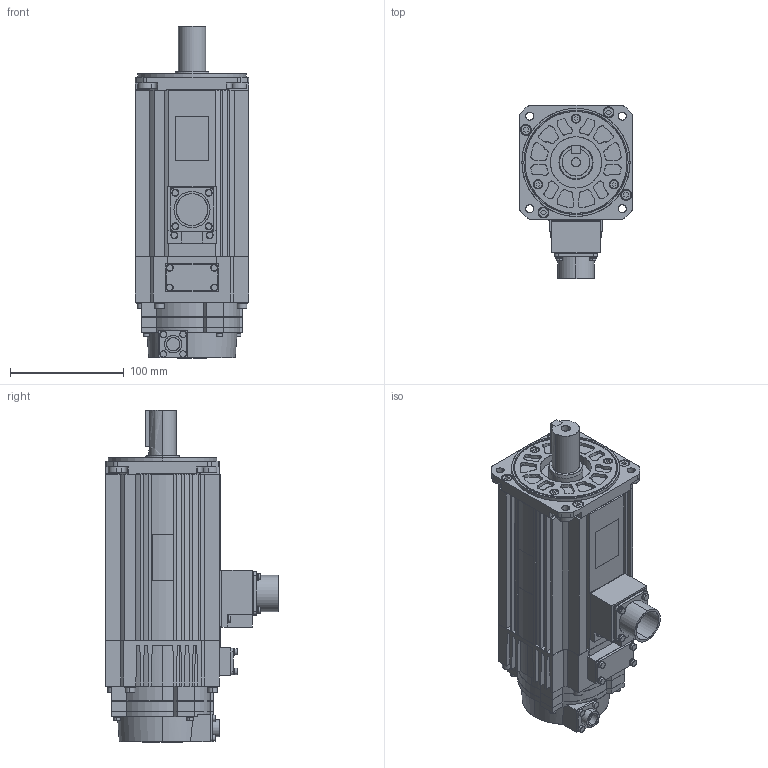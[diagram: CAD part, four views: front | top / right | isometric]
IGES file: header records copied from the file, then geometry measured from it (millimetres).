
Start section: SolidWorks IGES file using analytic representation for surfaces
Global section: file name: D:\YASKAWA\sgmsv_25a_a6c.IGS; native system: SolidWorks 2006 by SolidWorks Corporation; preprocessor: SolidWorks 2006 by SolidWorks Corporation; author: yamanouchi; date: 110320.204712; units: millimetre
Bounding box: 100 x 151.75 x 291.6 mm (x, y, z)
Surface area: 184244 mm2 (no closed solid volume)
Topology: 0 solids, 0 shells, 996 faces, 12135 edges, 12132 vertices
Faces by surface type: bspline 578, revolution 418
